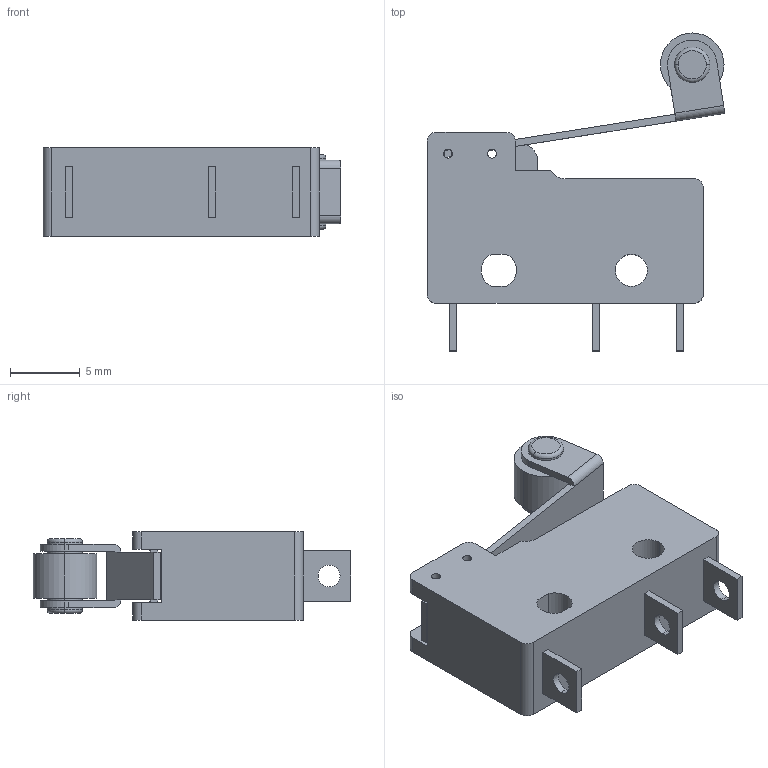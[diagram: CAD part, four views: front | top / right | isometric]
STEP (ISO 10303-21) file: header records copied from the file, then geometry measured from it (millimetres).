
FILE_DESCRIPTION (( 'STEP AP214' ), '1' );
FILE_NAME ('634-01101 CubeSat Kit Remove-Before-Flight (RBF) Switch.STEP', '2017-09-08T21:42:05', ( '' ), ( '' ), 'SwSTEP 2.0', 'SolidWorks 2014', '' );
FILE_SCHEMA (( 'AUTOMOTIVE_DESIGN' ));
Length unit declared in the file: millimetre
Products named in the file (2): 634-01101 CubeSat Kit Remove-Before-Flight (RBF) Switch
Bounding box: 21.4 x 22.85 x 6.35 mm (x, y, z)
Volume: 1289.3 mm3; surface area: 1310.4 mm2
Topology: 1 solids, 1 shells, 108 faces, 334 edges, 220 vertices
Faces by surface type: plane 59, cylinder 45, torus 4
Entity records: 4650 total; most frequent: DIRECTION 668, ORIENTED_EDGE 668, CARTESIAN_POINT 664, EDGE_CURVE 334, AXIS2_PLACEMENT_3D 224, LINE 220, VECTOR 220, VERTEX_POINT 220
